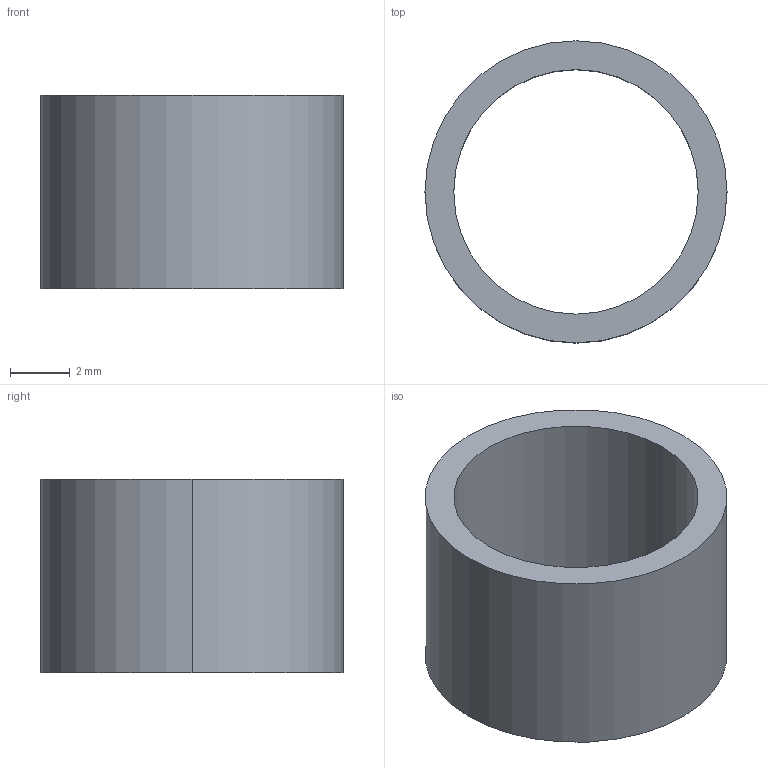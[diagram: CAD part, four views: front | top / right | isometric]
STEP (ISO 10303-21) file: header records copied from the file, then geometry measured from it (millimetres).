
FILE_DESCRIPTION (( 'STEP AP203' ), '1' );
FILE_NAME ('65104951 Distanzhülse.STEP', '2015-11-27T05:04:30', ( '' ), ( '' ), 'SwSTEP 2.0', 'SolidWorks 2015', '' );
FILE_SCHEMA (( 'CONFIG_CONTROL_DESIGN' ));
Length unit declared in the file: millimetre
Products named in the file (1): 65104951 Distanzhülse
Bounding box: 10.13 x 10.13 x 6.5 mm (x, y, z)
Volume: 180.6 mm3; surface area: 429.9 mm2
Topology: 1 solids, 1 shells, 6 faces, 12 edges, 8 vertices
Faces by surface type: cylinder 4, plane 2
Entity records: 245 total; most frequent: DIRECTION 34, CARTESIAN_POINT 27, ORIENTED_EDGE 24, AXIS2_PLACEMENT_3D 15, EDGE_CURVE 12, EDGE_LOOP 8, VERTEX_POINT 8, PERSON_AND_ORGANIZATION 8
